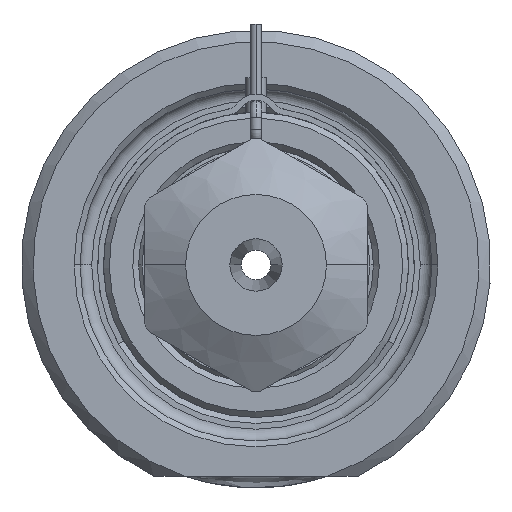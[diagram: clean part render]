
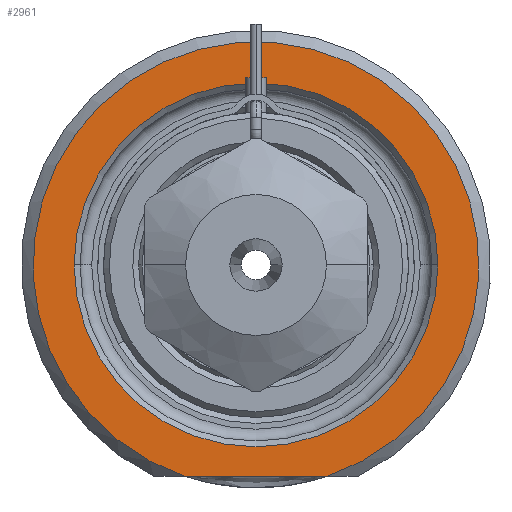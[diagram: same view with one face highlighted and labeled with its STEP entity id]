
A CAD part, front view. The second image highlights one B-rep face of the part: STEP entity #2961.
In plain terms, the highlighted planar face has unit normal (0, -1, 0).
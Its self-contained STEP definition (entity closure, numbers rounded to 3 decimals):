
#1=DIRECTION('',(1.,0.,0.));
#2=VECTOR('',#1,12.166);
#3=CARTESIAN_POINT('',(-6.083,0.,-18.));
#4=LINE('',#3,#2);
#5=CARTESIAN_POINT('',(0.,0.,0.));
#6=DIRECTION('',(0.,1.,0.));
#7=DIRECTION('',(-1.,0.,0.));
#8=AXIS2_PLACEMENT_3D('',#5,#6,#7);
#10=CARTESIAN_POINT('',(0.,0.,0.));
#11=DIRECTION('',(0.,1.,0.));
#12=DIRECTION('',(1.,0.,0.));
#13=AXIS2_PLACEMENT_3D('',#10,#11,#12);
#264=CARTESIAN_POINT('',(0.,0.,0.));
#265=DIRECTION('',(0.,-1.,0.));
#266=DIRECTION('',(0.32,0.,-0.947));
#267=AXIS2_PLACEMENT_3D('',#264,#265,#266);
#2488=CARTESIAN_POINT('',(-15.5,0.,0.));
#2489=CARTESIAN_POINT('',(15.5,0.,0.));
#2490=VERTEX_POINT('',#2488);
#2491=VERTEX_POINT('',#2489);
#2546=CARTESIAN_POINT('',(-6.083,0.,-18.));
#2547=CARTESIAN_POINT('',(6.083,0.,-18.));
#2548=VERTEX_POINT('',#2546);
#2549=VERTEX_POINT('',#2547);
#2944=CARTESIAN_POINT('',(0.,0.,0.));
#2945=DIRECTION('',(0.,-1.,0.));
#2946=DIRECTION('',(1.,0.,0.));
#2947=AXIS2_PLACEMENT_3D('',#2944,#2945,#2946);
#2948=PLANE('',#2947);
#2950=ORIENTED_EDGE('',*,*,#2949,.F.);
#2952=ORIENTED_EDGE('',*,*,#2951,.F.);
#2953=EDGE_LOOP('',(#2950,#2952));
#2954=FACE_OUTER_BOUND('',#2953,.F.);
#2956=ORIENTED_EDGE('',*,*,#2955,.F.);
#2958=ORIENTED_EDGE('',*,*,#2957,.F.);
#2959=EDGE_LOOP('',(#2956,#2958));
#2960=FACE_BOUND('',#2959,.F.);
#2961=ADVANCED_FACE('',(#2954,#2960),#2948,.T.);
#9=CIRCLE('',#8,15.5);
#14=CIRCLE('',#13,15.5);
#268=CIRCLE('',#267,19.);
#2949=EDGE_CURVE('',#2548,#2549,#4,.T.);
#2951=EDGE_CURVE('',#2549,#2548,#268,.T.);
#2955=EDGE_CURVE('',#2490,#2491,#9,.T.);
#2957=EDGE_CURVE('',#2491,#2490,#14,.T.);
